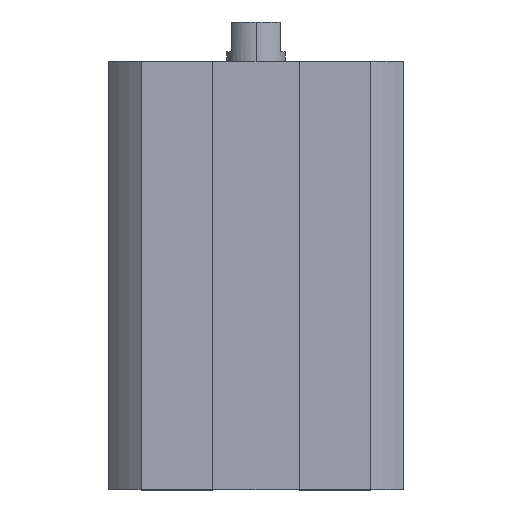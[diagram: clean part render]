
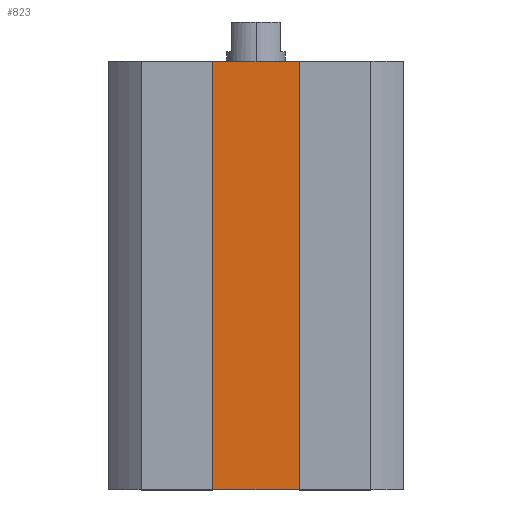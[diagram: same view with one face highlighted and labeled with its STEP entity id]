
A CAD part, top view. The second image highlights one B-rep face of the part: STEP entity #823.
In plain terms, the highlighted planar face has unit normal (0, 0, 1).
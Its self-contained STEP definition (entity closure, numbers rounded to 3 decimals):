
#30 = VECTOR ( 'NONE', #2131, 1000. ) ;
#86 = LINE ( 'NONE', #1149, #113 ) ;
#103 = LINE ( 'NONE', #349, #1105 ) ;
#113 = VECTOR ( 'NONE', #455, 1000. ) ;
#214 = LINE ( 'NONE', #634, #1417 ) ;
#216 = EDGE_CURVE ( 'NONE', #352, #1243, #214, .T. ) ;
#233 = EDGE_CURVE ( 'NONE', #352, #1174, #86, .T. ) ;
#247 = CARTESIAN_POINT ( 'NONE',  ( 4.4, -43.5, 10. ) ) ;
#321 = DIRECTION ( 'NONE',  ( 0., 0., 1. ) ) ;
#346 = ORIENTED_EDGE ( 'NONE', *, *, #216, .T. ) ;
#349 = CARTESIAN_POINT ( 'NONE',  ( 0., 0., 10. ) ) ;
#352 = VERTEX_POINT ( 'NONE', #1746 ) ;
#424 = CARTESIAN_POINT ( 'NONE',  ( -4.4, 0., 10. ) ) ;
#455 = DIRECTION ( 'NONE',  ( 0., 1., 0. ) ) ;
#464 = DIRECTION ( 'NONE',  ( 1., 0., 0. ) ) ;
#564 = FACE_OUTER_BOUND ( 'NONE', #895, .T. ) ;
#634 = CARTESIAN_POINT ( 'NONE',  ( 0., -43.5, 10. ) ) ;
#805 = LINE ( 'NONE', #1766, #30 ) ;
#823 = ADVANCED_FACE ( 'NONE', ( #564 ), #1757, .T. ) ;
#861 = EDGE_CURVE ( 'NONE', #1174, #1460, #103, .T. ) ;
#895 = EDGE_LOOP ( 'NONE', ( #927, #2013, #346, #1145 ) ) ;
#927 = ORIENTED_EDGE ( 'NONE', *, *, #861, .F. ) ;
#928 = EDGE_CURVE ( 'NONE', #1243, #1460, #805, .T. ) ;
#998 = AXIS2_PLACEMENT_3D ( 'NONE', #1533, #321, #1736 ) ;
#1003 = CARTESIAN_POINT ( 'NONE',  ( 4.4, 0., 10. ) ) ;
#1105 = VECTOR ( 'NONE', #1416, 1000. ) ;
#1145 = ORIENTED_EDGE ( 'NONE', *, *, #928, .T. ) ;
#1149 = CARTESIAN_POINT ( 'NONE',  ( -4.4, -43.5, 10. ) ) ;
#1174 = VERTEX_POINT ( 'NONE', #424 ) ;
#1243 = VERTEX_POINT ( 'NONE', #247 ) ;
#1416 = DIRECTION ( 'NONE',  ( 1., 0., 0. ) ) ;
#1417 = VECTOR ( 'NONE', #464, 1000. ) ;
#1460 = VERTEX_POINT ( 'NONE', #1003 ) ;
#1533 = CARTESIAN_POINT ( 'NONE',  ( 0., -43.5, 10. ) ) ;
#1736 = DIRECTION ( 'NONE',  ( 1., 0., 0. ) ) ;
#1746 = CARTESIAN_POINT ( 'NONE',  ( -4.4, -43.5, 10. ) ) ;
#1757 = PLANE ( 'NONE',  #998 ) ;
#1766 = CARTESIAN_POINT ( 'NONE',  ( 4.4, -43.5, 10. ) ) ;
#2013 = ORIENTED_EDGE ( 'NONE', *, *, #233, .F. ) ;
#2131 = DIRECTION ( 'NONE',  ( 0., 1., 0. ) ) ;
